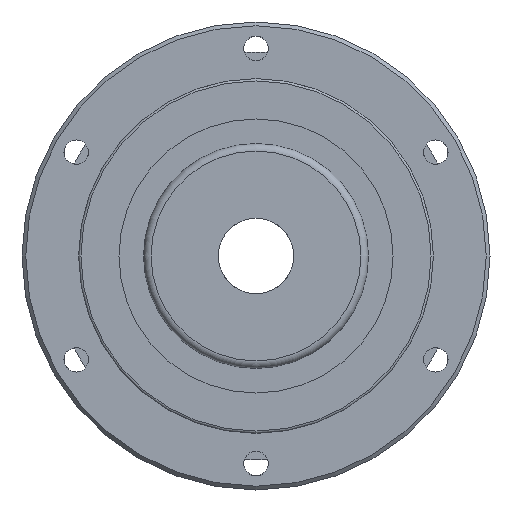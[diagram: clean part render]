
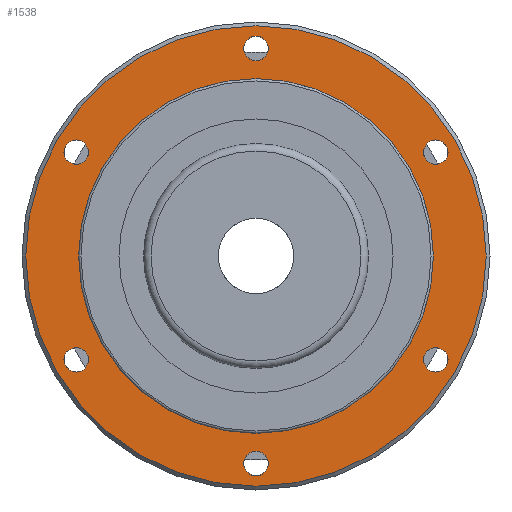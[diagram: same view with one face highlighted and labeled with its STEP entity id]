
A CAD part, left-side view. The second image highlights one B-rep face of the part: STEP entity #1538.
In plain terms, the highlighted planar face has unit normal (-1, 0, 0).
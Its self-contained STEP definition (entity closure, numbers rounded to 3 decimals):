
#45=PLANE('',#1677);
#189=CIRCLE('',#1676,30.5);
#190=CIRCLE('',#1678,1.621);
#191=CIRCLE('',#1679,1.621);
#192=CIRCLE('',#1680,1.621);
#193=CIRCLE('',#1681,1.621);
#194=CIRCLE('',#1682,1.621);
#195=CIRCLE('',#1683,1.621);
#196=CIRCLE('',#1684,23.5);
#344=ORIENTED_EDGE('',*,*,#572,.T.);
#345=ORIENTED_EDGE('',*,*,#573,.T.);
#346=ORIENTED_EDGE('',*,*,#574,.T.);
#347=ORIENTED_EDGE('',*,*,#575,.T.);
#348=ORIENTED_EDGE('',*,*,#576,.T.);
#349=ORIENTED_EDGE('',*,*,#577,.T.);
#350=ORIENTED_EDGE('',*,*,#578,.F.);
#351=ORIENTED_EDGE('',*,*,#571,.T.);
#571=EDGE_CURVE('',#683,#683,#189,.T.);
#572=EDGE_CURVE('',#684,#684,#190,.T.);
#573=EDGE_CURVE('',#685,#685,#191,.T.);
#574=EDGE_CURVE('',#686,#686,#192,.T.);
#575=EDGE_CURVE('',#687,#687,#193,.T.);
#576=EDGE_CURVE('',#688,#688,#194,.T.);
#577=EDGE_CURVE('',#689,#689,#195,.T.);
#578=EDGE_CURVE('',#690,#690,#196,.T.);
#683=VERTEX_POINT('',#2365);
#684=VERTEX_POINT('',#2368);
#685=VERTEX_POINT('',#2370);
#686=VERTEX_POINT('',#2372);
#687=VERTEX_POINT('',#2374);
#688=VERTEX_POINT('',#2376);
#689=VERTEX_POINT('',#2378);
#690=VERTEX_POINT('',#2380);
#789=EDGE_LOOP('',(#344));
#790=EDGE_LOOP('',(#345));
#791=EDGE_LOOP('',(#346));
#792=EDGE_LOOP('',(#347));
#793=EDGE_LOOP('',(#348));
#794=EDGE_LOOP('',(#349));
#795=EDGE_LOOP('',(#350));
#796=EDGE_LOOP('',(#351));
#911=FACE_BOUND('',#789,.T.);
#912=FACE_BOUND('',#790,.T.);
#913=FACE_BOUND('',#791,.T.);
#914=FACE_BOUND('',#792,.T.);
#915=FACE_BOUND('',#793,.T.);
#916=FACE_BOUND('',#794,.T.);
#917=FACE_BOUND('',#795,.T.);
#918=FACE_BOUND('',#796,.T.);
#1538=ADVANCED_FACE('',(#911,#912,#913,#914,#915,#916,#917,#918),#45,.F.);
#1676=AXIS2_PLACEMENT_3D('',#2364,#1941,#1942);
#1677=AXIS2_PLACEMENT_3D('',#2366,#1943,#1944);
#1678=AXIS2_PLACEMENT_3D('',#2367,#1945,#1946);
#1679=AXIS2_PLACEMENT_3D('',#2369,#1947,#1948);
#1680=AXIS2_PLACEMENT_3D('',#2371,#1949,#1950);
#1681=AXIS2_PLACEMENT_3D('',#2373,#1951,#1952);
#1682=AXIS2_PLACEMENT_3D('',#2375,#1953,#1954);
#1683=AXIS2_PLACEMENT_3D('',#2377,#1955,#1956);
#1684=AXIS2_PLACEMENT_3D('',#2379,#1957,#1958);
#1941=DIRECTION('',(-1.,0.,0.));
#1942=DIRECTION('',(0.,0.,1.));
#1943=DIRECTION('',(1.,0.,0.));
#1944=DIRECTION('',(0.,0.,-1.));
#1945=DIRECTION('',(1.,0.,0.));
#1946=DIRECTION('',(0.,0.,1.));
#1947=DIRECTION('',(1.,0.,0.));
#1948=DIRECTION('',(0.,0.,1.));
#1949=DIRECTION('',(1.,0.,0.));
#1950=DIRECTION('',(0.,0.,1.));
#1951=DIRECTION('',(1.,0.,0.));
#1952=DIRECTION('',(0.,0.,1.));
#1953=DIRECTION('',(1.,0.,0.));
#1954=DIRECTION('',(0.,0.,1.));
#1955=DIRECTION('',(1.,0.,0.));
#1956=DIRECTION('',(0.,0.,1.));
#1957=DIRECTION('',(-1.,0.,0.));
#1958=DIRECTION('',(0.,0.,1.));
#2364=CARTESIAN_POINT('',(7.8,0.,0.));
#2365=CARTESIAN_POINT('',(7.8,0.,30.5));
#2366=CARTESIAN_POINT('',(7.8,0.,23.5));
#2367=CARTESIAN_POINT('',(7.8,23.816,13.75));
#2368=CARTESIAN_POINT('',(7.8,23.816,15.371));
#2369=CARTESIAN_POINT('',(7.8,23.816,-13.75));
#2370=CARTESIAN_POINT('',(7.8,23.816,-12.129));
#2371=CARTESIAN_POINT('',(7.8,0.,-27.5));
#2372=CARTESIAN_POINT('',(7.8,0.,-25.879));
#2373=CARTESIAN_POINT('',(7.8,-23.816,-13.75));
#2374=CARTESIAN_POINT('',(7.8,-23.816,-12.129));
#2375=CARTESIAN_POINT('',(7.8,-23.816,13.75));
#2376=CARTESIAN_POINT('',(7.8,-23.816,15.371));
#2377=CARTESIAN_POINT('',(7.8,0.,27.5));
#2378=CARTESIAN_POINT('',(7.8,0.,29.121));
#2379=CARTESIAN_POINT('',(7.8,0.,0.));
#2380=CARTESIAN_POINT('',(7.8,0.,23.5));
